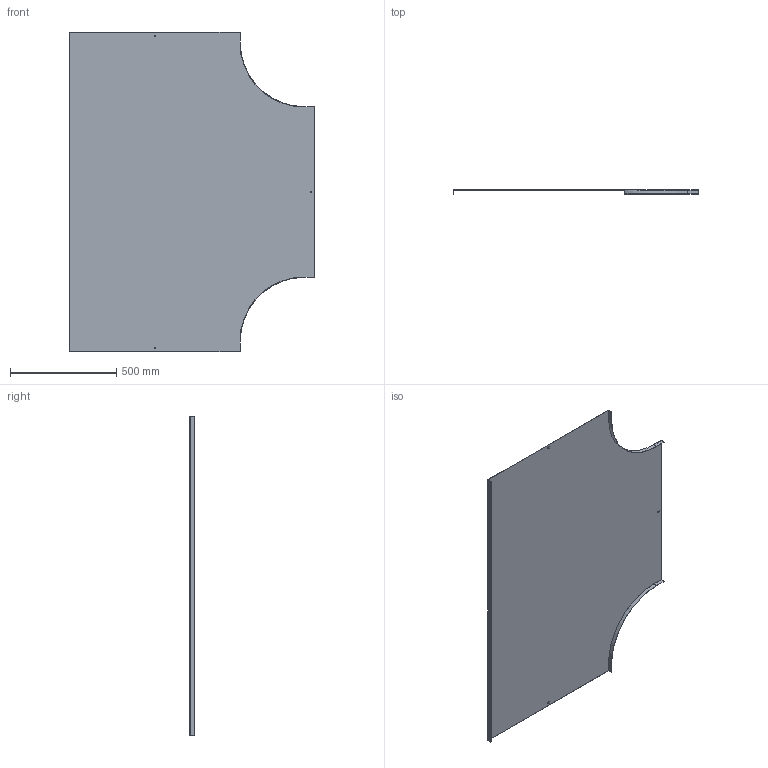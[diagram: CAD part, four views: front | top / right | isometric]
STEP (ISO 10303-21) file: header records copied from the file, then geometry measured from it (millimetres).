
FILE_DESCRIPTION (( 'STEP AP214' ), '1' );
FILE_NAME ('B2_15N3R800.step', '2025-02-21T12:07:22', ( '' ), ( '' ), 'SwSTEP 2.0', 'SolidWorks 2023', '' );
FILE_SCHEMA (( 'AUTOMOTIVE_DESIGN' ));
Length unit declared in the file: millimetre
Products named in the file (1): B2_15N3R800
Bounding box: 1151.5 x 20 x 1500 mm (x, y, z)
Volume: 2356882.9 mm3; surface area: 3150386.7 mm2
Topology: 1 solids, 1 shells, 34 faces, 96 edges, 64 vertices
Faces by surface type: plane 30, cylinder 4
Entity records: 1123 total; most frequent: CARTESIAN_POINT 195, ORIENTED_EDGE 192, DIRECTION 174, EDGE_CURVE 96, VECTOR 88, LINE 88, VERTEX_POINT 64, AXIS2_PLACEMENT_3D 43
